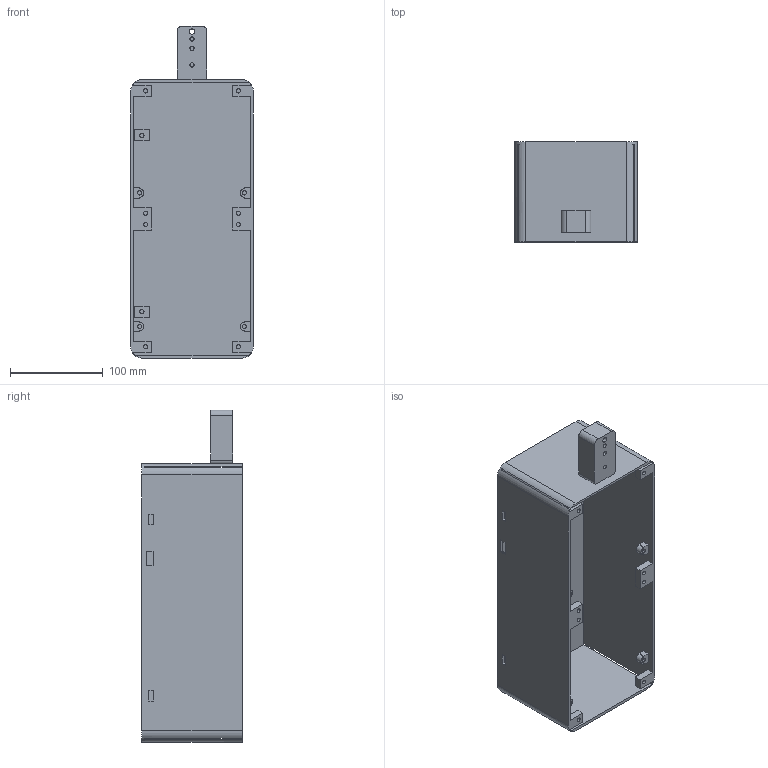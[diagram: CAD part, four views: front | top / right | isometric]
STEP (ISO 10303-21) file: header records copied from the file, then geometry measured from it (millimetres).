
FILE_DESCRIPTION(('FreeCAD Model'),'2;1');
FILE_NAME('Open CASCADE Shape Model','2026-10-14T02:29:02',('FreeCAD'),( 'FreeCAD'),'Open CASCADE STEP processor 7.8','FreeCAD','Unknown');
FILE_SCHEMA(('AUTOMOTIVE_DESIGN { 1 0 10303 214 1 1 1 1 }'));
Length unit declared in the file: millimetre
Products named in the file (1): Open CASCADE STEP translator 7.8 43
Bounding box: 132 x 108 x 358 mm (x, y, z)
Volume: 433711.7 mm3; surface area: 272090.5 mm2
Topology: 1 solids, 1 shells, 140 faces, 350 edges, 236 vertices
Faces by surface type: plane 106, cylinder 34
Full cylindrical faces by diameter (mm): 4.5 x17, 5.8 x1
Entity records: 4208 total; most frequent: CARTESIAN_POINT 727, DIRECTION 716, ORIENTED_EDGE 700, EDGE_CURVE 350, LINE 266, VECTOR 266, VERTEX_POINT 236, AXIS2_PLACEMENT_3D 225
